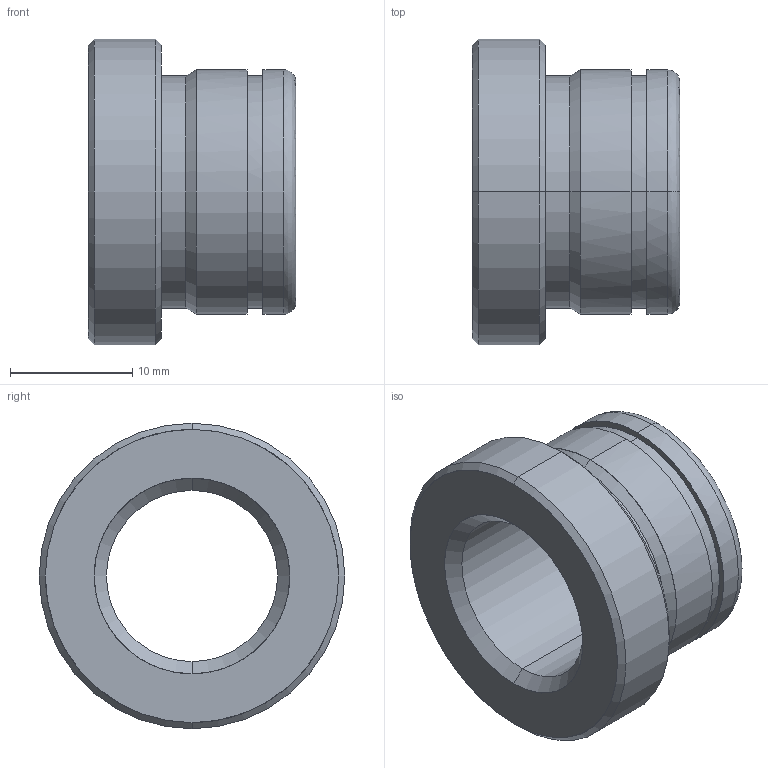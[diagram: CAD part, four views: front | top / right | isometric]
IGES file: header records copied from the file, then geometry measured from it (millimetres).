
Start section: START RECORD GO HERE.
Global section: file name: 553-14X17.igs; native system: DASSAULT SYSTEMES CATIA V5 R20 - www.3ds.com; preprocessor: CATIA Version 5 Release 20 ; author: Utente; organization: NB04-ASUS; date: 20210521.202837; units: millimetre
Bounding box: 17 x 25 x 25 mm (x, y, z)
Surface area: 2546.5 mm2 (no closed solid volume)
Topology: 0 solids, 0 shells, 29 faces, 184 edges, 184 vertices
Faces by surface type: revolution 24, plane 5
